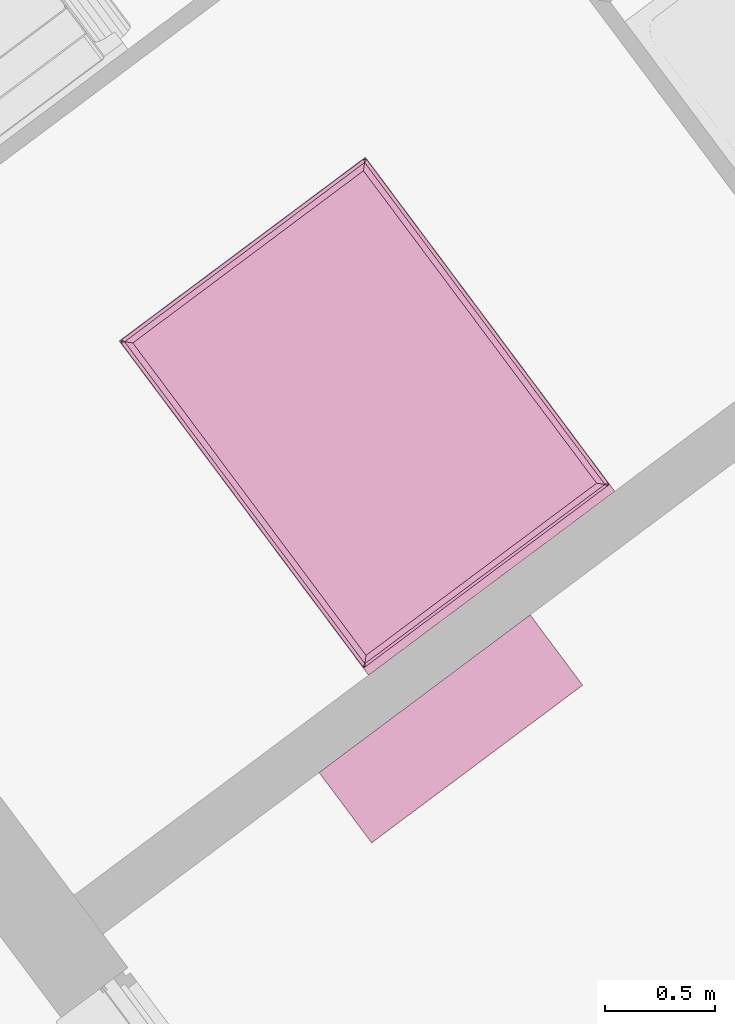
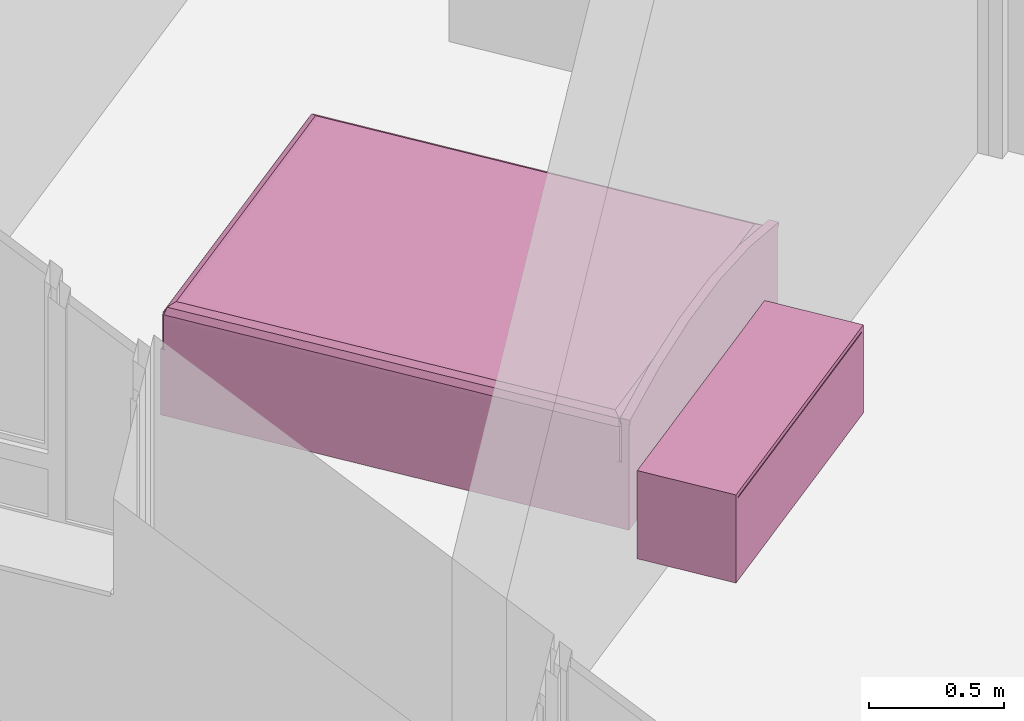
# One storey, part 145 of 195: 2 furnishings.
"""IFC2X3 building model written with IfcOpenShell, lengths in metres."""

from ifc_helpers import new_model, entity, si_unit, converted_unit, derived_unit, money_unit, direction, frame, origin_with_axes, place, context, subcontext, project, spatial, open_shell, faceted_brep, surface_model, source, transform, mapped, type_object, element, save


model = new_model("IFC2X3")

# Units and contexts
model_context = context("Model", 3, precision=1e-05, world=origin_with_axes(), true_north=direction((0.0, 1.0)))
body_context = subcontext(model_context, "Body", "Model", "MODEL_VIEW")
ifc_project = project(units=[si_unit("LENGTHUNIT", "METRE"), si_unit("AREAUNIT", "SQUARE_METRE"), si_unit("VOLUMEUNIT", "CUBIC_METRE"), converted_unit("PLANEANGLEUNIT", "DEGREE", entity("IfcPlaneAngleMeasure", 0.0174532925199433), si_unit("PLANEANGLEUNIT", "RADIAN"), dimensions=[0, 0, 0, 0, 0, 0, 0]), money_unit("CHF"), converted_unit("TIMEUNIT", "Year", entity("IfcTimeMeasure", 31557600.0), si_unit("TIMEUNIT", "SECOND"), dimensions=[0, 0, 1, 0, 0, 0, 0]), si_unit("MASSUNIT", "GRAM", prefix="KILO"), si_unit("THERMODYNAMICTEMPERATUREUNIT", "DEGREE_CELSIUS"), si_unit("LUMINOUSINTENSITYUNIT", "LUMEN"), si_unit("ENERGYUNIT", "JOULE", prefix="MEGA"), derived_unit("THERMALCONDUCTANCEUNIT", [(si_unit("POWERUNIT", "WATT"), 1), (si_unit("LENGTHUNIT", "METRE"), -1), (si_unit("THERMODYNAMICTEMPERATUREUNIT", "KELVIN"), -1)]), derived_unit("SPECIFICHEATCAPACITYUNIT", [(si_unit("ENERGYUNIT", "JOULE"), 1), (si_unit("MASSUNIT", "GRAM", prefix="KILO"), -1), (si_unit("THERMODYNAMICTEMPERATUREUNIT", "KELVIN"), -1)]), derived_unit("MASSDENSITYUNIT", [(si_unit("MASSUNIT", "GRAM", prefix="KILO"), 1), (si_unit("VOLUMEUNIT", "CUBIC_METRE"), -1)])], contexts=[model_context])

# Site, building, storey
site_placement = place(None, origin_with_axes())
site = spatial("IfcSite", under=ifc_project, at=site_placement, Name="Site", CompositionType="ELEMENT")
building_placement = place(site_placement, origin_with_axes())
building = spatial("IfcBuilding", under=site, at=building_placement, Name="Bâtiment", CompositionType="ELEMENT")
storey_placement = place(building_placement, origin_with_axes())
storey = spatial("IfcBuildingStorey", under=building, at=storey_placement, Name="rdc", CompositionType="ELEMENT", Elevation=0.0)

# Furnishings
furnishing_element_type_1 = type_object("IfcFurnishingElementType", Name="Meuble à plans 27")
shared_shape_1 = source(origin_with_axes(), body_context, "Body", "SurfaceModel", [
    surface_model("IfcShellBasedSurfaceModel", [(-1.18, 0.02, 0.0), (-1.18, 0.4, 0.0), (-0.02, 0.4, 0.0), (-0.02, 0.02, 0.0)], [open_shell([[[0, 1, 2, 3]]])]),
    faceted_brep([(0.0, 0.4, 0.0), (0.0, 0.0, 0.0), (-1.2, 0.0, 0.0), (-1.2, 0.4, 0.0), (0.0, 0.4, 0.4), (0.0, 0.0, 0.4), (-1.2, 0.0, 0.4), (-0.02, 0.0, 0.02), (-1.18, 0.0, 0.02), (-1.18, 0.0, 0.38), (-0.02, 0.0, 0.38), (-1.2, 0.4, 0.4), (-0.02, 0.4, 0.01999999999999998), (-0.02, 0.4, 0.38), (-1.18, 0.4, 0.38), (-1.18, 0.4, 0.01999999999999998)], [[[0, 1, 2, 3]], [[4, 5, 1, 0]], [[1, 5, 6, 2], [7, 8, 9, 10]], [[3, 2, 6, 11]], [[0, 3, 11, 4], [12, 13, 14, 15]], [[11, 6, 5, 4]], [[15, 8, 7, 12]], [[14, 9, 8, 15]], [[13, 10, 9, 14]], [[12, 7, 10, 13]]]),
    faceted_brep([(-1.18, 0.4, 0.01999999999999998), (-1.18, 0.4, 0.38), (-0.02, 0.4, 0.38), (-0.02, 0.4, 0.01999999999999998), (-1.18, 0.38, 0.01999999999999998), (-1.18, 0.3800000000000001, 0.38), (-0.02, 0.3800000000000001, 0.38), (-0.02, 0.38, 0.01999999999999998)], [[[0, 1, 2, 3]], [[0, 4, 5, 1]], [[1, 5, 6, 2]], [[2, 6, 7, 3]], [[3, 7, 4, 0]], [[7, 6, 5, 4]]]),
    faceted_brep([(-1.18, 0.0, 0.02), (-1.18, 0.38, 0.02), (-0.02, 0.38, 0.02), (-0.02, 0.0, 0.02), (-1.18, 0.0, 0.3750000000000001), (-1.18, 0.38, 0.3750000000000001), (-0.02, 0.38, 0.3750000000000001), (-0.02, 0.0, 0.3750000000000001)], [[[0, 1, 2, 3]], [[0, 4, 5, 1]], [[1, 5, 6, 2]], [[2, 6, 7, 3]], [[3, 7, 4, 0]], [[7, 6, 5, 4]]]),
])
furnishing_1_placement = place(storey_placement, frame((9534.874061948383, -1080.804691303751, 57.92018680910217), z_axis=(0.0, 0.0, 1.0), x_axis=(0.8011628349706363, 0.5984464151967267, 0.0)))
element("IfcFurnishingElement", 1, at=furnishing_1_placement, inside=storey, type_object=furnishing_element_type_1, Name="Obj.-376", context=body_context, shape_type="MappedRepresentation", body=[
    mapped(shared_shape_1, transform((0.0, 0.0, 0.0))),
])
furnishing_element_type_2 = type_object("IfcFurnishingElementType", Name="Lit double 01")
shared_shape_2 = source(origin_with_axes(), body_context, "Body", "Brep", [
    faceted_brep([(0.0, 1.895, 0.0), (0.0, 1.865, 0.0), (-1.4, 1.865, 0.0), (-1.4, 1.895, 0.0), (0.0, 1.895, 0.48), (0.0, 1.865, 0.48), (-0.276362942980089, 1.865, 0.5438448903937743), (-0.558179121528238, 1.865, 0.5759741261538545), (-0.8418208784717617, 1.865, 0.5759741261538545), (-1.123637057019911, 1.865, 0.5438448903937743), (-1.4, 1.865, 0.48), (-1.4, 1.865, 0.4799), (-1.4, 1.895, 0.4799), (-1.4, 1.895, 0.48), (-1.123637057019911, 1.895, 0.5438448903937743), (-0.8418208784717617, 1.895, 0.5759741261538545), (-0.558179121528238, 1.895, 0.5759741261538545), (-0.276362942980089, 1.895, 0.5438448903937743)], [[[0, 1, 2, 3]], [[4, 5, 1, 0]], [[1, 5, 6, 7, 8, 9, 10, 11, 2]], [[3, 2, 11, 12]], [[0, 3, 12, 13, 14, 15, 16, 17, 4]], [[17, 6, 5, 4]], [[16, 7, 6, 17]], [[15, 8, 7, 16]], [[14, 9, 8, 15]], [[13, 10, 9, 14]], [[12, 11, 10, 13]]]),
    faceted_brep([(-1.4, 1.9, 0.48), (-1.4, 1.86, 0.48), (-1.399999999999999, 1.86, 0.4999999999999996), (-1.399999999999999, 1.9, 0.4999999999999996), (-1.123637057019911, 1.9, 0.5438448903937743), (-1.123637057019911, 1.86, 0.5438448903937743), (-0.8418208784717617, 1.86, 0.5759741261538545), (-0.558179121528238, 1.86, 0.5759741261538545), (-0.276362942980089, 1.86, 0.5438448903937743), (0.0, 1.86, 0.48), (0.0, 1.86, 0.4999), (0.0, 1.86, 0.5), (-0.276362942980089, 1.86, 0.5638448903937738), (-0.5581791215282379, 1.86, 0.5959741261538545), (-0.8418208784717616, 1.86, 0.5959741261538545), (-1.123637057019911, 1.86, 0.5638448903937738), (-1.123637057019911, 1.9, 0.5638448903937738), (-0.8418208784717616, 1.9, 0.5959741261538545), (-0.5581791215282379, 1.9, 0.5959741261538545), (-0.276362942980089, 1.9, 0.5638448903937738), (0.0, 1.9, 0.5), (0.0, 1.9, 0.4999), (0.0, 1.9, 0.48), (-0.276362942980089, 1.9, 0.5438448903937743), (-0.558179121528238, 1.9, 0.5759741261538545), (-0.8418208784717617, 1.9, 0.5759741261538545)], [[[0, 1, 2, 3]], [[4, 5, 1, 0]], [[1, 5, 6, 7, 8, 9, 10, 11, 12, 13, 14, 15, 2]], [[3, 2, 15, 16]], [[0, 3, 16, 17, 18, 19, 20, 21, 22, 23, 24, 25, 4]], [[25, 6, 5, 4]], [[24, 7, 6, 25]], [[23, 8, 7, 24]], [[22, 9, 8, 23]], [[21, 10, 9, 22]], [[20, 11, 10, 21]], [[19, 12, 11, 20]], [[18, 13, 12, 19]], [[17, 14, 13, 18]], [[16, 15, 14, 17]]]),
    faceted_brep([(-1.4, 0.0, 0.0), (-1.4, 1.865, 0.0), (0.0, 1.865, 0.0), (0.0, 0.0, 0.0), (-1.4, 0.0, 0.3), (-1.4, 1.865, 0.3), (0.0, 1.865, 0.3), (0.0, 0.0, 0.3)], [[[0, 1, 2, 3]], [[0, 4, 5, 1]], [[1, 5, 6, 2]], [[2, 6, 7, 3]], [[3, 7, 4, 0]], [[7, 6, 5, 4]]]),
    faceted_brep([(0.0, 0.02, 0.43), (-0.002679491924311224, 0.01, 0.43), (-0.009999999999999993, 0.002679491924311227, 0.43), (-0.01999999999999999, 0.0, 0.43), (-1.38, 0.0, 0.43), (-1.39, 0.002679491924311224, 0.43), (-1.397320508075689, 0.009999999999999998, 0.43), (-1.4, 0.02, 0.43), (-1.4, 1.845, 0.43), (-1.397320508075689, 1.855, 0.43), (-1.39, 1.862320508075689, 0.43), (-1.38, 1.865, 0.43), (-0.02, 1.865, 0.43), (-0.009999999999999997, 1.862320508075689, 0.43), (-0.002679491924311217, 1.855, 0.43), (0.0, 1.845, 0.43), (3.895163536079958e-10, 0.02000000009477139, 0.44), (-0.002679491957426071, 0.0100000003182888, 0.44), (-0.0100000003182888, 0.002679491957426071, 0.44), (-0.02000000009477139, -3.895163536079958e-10, 0.44), (-1.380000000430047, -3.895163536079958e-10, 0.44), (-1.39000000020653, 0.002679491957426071, 0.44), (-1.39732050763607, 0.0100000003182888, 0.44), (-1.399999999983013, 0.02000000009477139, 0.44), (-1.399999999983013, 1.845000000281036, 0.44), (-1.39732050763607, 1.855000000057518, 0.44), (-1.39000000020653, 1.862320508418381, 0.44), (-1.380000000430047, 1.864999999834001, 0.44), (-0.02000000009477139, 1.864999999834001, 0.44), (-0.0100000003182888, 1.862320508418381, 0.44), (-0.002679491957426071, 1.855000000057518, 0.44), (3.895163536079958e-10, 1.845000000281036, 0.44), (-0.002044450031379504, 0.02026915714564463, 0.4555291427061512), (-0.004512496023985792, 0.01105828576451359, 0.4555291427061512), (-0.01105828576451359, 0.004512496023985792, 0.4555291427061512), (-0.02026915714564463, 0.002044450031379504, 0.4555291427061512), (-1.379730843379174, 0.002044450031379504, 0.4555291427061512), (-1.388941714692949, 0.004512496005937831, 0.4555291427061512), (-1.395487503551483, 0.01105828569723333, 0.4555291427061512), (-1.397955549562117, 0.02026915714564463, 0.4555291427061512), (-1.397955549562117, 1.844730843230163, 0.4555291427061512), (-1.395487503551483, 1.853941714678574, 0.4555291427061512), (-1.388941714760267, 1.860487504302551, 0.4555291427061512), (-1.379730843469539, 1.862955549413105, 0.4555291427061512), (-0.02026915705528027, 1.862955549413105, 0.4555291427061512), (-0.01105828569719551, 1.860487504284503, 0.4555291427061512), (-0.004512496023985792, 1.853941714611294, 0.4555291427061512), (-0.002044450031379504, 1.844730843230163, 0.4555291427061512), (-0.01757359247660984, 0.02231360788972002, 0.4824264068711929), (-0.01843554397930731, 0.01909676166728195, 0.4824264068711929), (-0.01909676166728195, 0.01843554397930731, 0.4824264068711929), (-0.02231360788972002, 0.01757359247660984, 0.4824264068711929), (-1.377686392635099, 0.01757359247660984, 0.4824264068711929), (-1.380903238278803, 0.01843554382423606, 0.4824264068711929), (-1.381564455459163, 0.01909676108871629, 0.4824264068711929), (-1.382426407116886, 0.02231360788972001, 0.4824264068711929), (-1.382426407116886, 1.842686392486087, 0.4824264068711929), (-1.381564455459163, 1.845903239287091, 0.4824264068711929), (-1.380903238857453, 1.846564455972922, 0.4824264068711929), (-1.377686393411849, 1.847426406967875, 0.4824264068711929), (-0.02231360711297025, 1.847426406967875, 0.4824264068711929), (-0.01909676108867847, 1.846564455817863, 0.4824264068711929), (-0.01843554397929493, 1.845903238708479, 0.4824264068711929), (-0.01757359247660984, 1.842686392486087, 0.4824264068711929), (-0.02303225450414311, 0.02303225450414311, 0.4855779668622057), (-0.02000000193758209, 0.02000000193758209, 0.4834338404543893), (-0.04447085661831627, 0.04447085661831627, 0.4979555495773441), (-1.35552914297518, 0.04447085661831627, 0.4979555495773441), (-1.376967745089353, 0.02303225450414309, 0.4855779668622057), (-1.379999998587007, 0.02000000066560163, 0.4834338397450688), (-1.35552914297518, 1.820529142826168, 0.4979555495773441), (-1.376967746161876, 1.841967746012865, 0.4855779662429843), (-1.380000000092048, 1.845000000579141, 0.4834338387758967), (-0.04447085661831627, 1.820529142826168, 0.4979555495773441), (-0.02303225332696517, 1.841967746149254, 0.48557796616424), (-0.02000000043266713, 1.844999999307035, 0.4834338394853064), (-0.05999999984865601, 0.05999999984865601, 0.5000000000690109), (-1.33999999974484, 0.05999999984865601, 0.5000000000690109), (-1.33999999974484, 1.804999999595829, 0.5000000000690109), (-0.05999999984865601, 1.804999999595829, 0.5000000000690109)], [[[0, 1, 2, 3, 4, 5, 6, 7, 8, 9, 10, 11, 12, 13, 14, 15]], [[0, 16, 17, 1]], [[1, 17, 18, 2]], [[2, 18, 19, 3]], [[3, 19, 20, 4]], [[4, 20, 21, 5]], [[5, 21, 22, 6]], [[6, 22, 23, 7]], [[7, 23, 24, 8]], [[8, 24, 25, 9]], [[9, 25, 26, 10]], [[10, 26, 27, 11]], [[11, 27, 28, 12]], [[12, 28, 29, 13]], [[13, 29, 30, 14]], [[14, 30, 31, 15]], [[15, 31, 16, 0]], [[16, 32, 33, 17]], [[17, 33, 34, 18]], [[18, 34, 35, 19]], [[19, 35, 36, 20]], [[20, 36, 37, 21]], [[21, 37, 38, 22]], [[22, 38, 39, 23]], [[23, 39, 40, 24]], [[24, 40, 41, 25]], [[25, 41, 42, 26]], [[26, 42, 43, 27]], [[27, 43, 44, 28]], [[28, 44, 45, 29]], [[29, 45, 46, 30]], [[30, 46, 47, 31]], [[31, 47, 32, 16]], [[32, 48, 49, 33]], [[33, 49, 50, 34]], [[34, 50, 51, 35]], [[35, 51, 52, 36]], [[36, 52, 53, 37]], [[37, 53, 54, 38]], [[38, 54, 55, 39]], [[39, 55, 56, 40]], [[40, 56, 57, 41]], [[41, 57, 58, 42]], [[42, 58, 59, 43]], [[43, 59, 60, 44]], [[44, 60, 61, 45]], [[45, 61, 62, 46]], [[46, 62, 63, 47]], [[47, 63, 48, 32]], [[48, 64, 65, 49]], [[49, 65, 50]], [[50, 65, 64, 51]], [[51, 64, 66, 67, 68, 52]], [[52, 68, 69, 53]], [[53, 69, 54]], [[54, 69, 68, 55]], [[55, 68, 67, 70, 71, 56]], [[56, 71, 72, 57]], [[57, 72, 58]], [[58, 72, 71, 59]], [[59, 71, 70, 73, 74, 60]], [[60, 74, 75, 61]], [[61, 75, 62]], [[62, 75, 74, 63]], [[63, 74, 73, 66, 64, 48]], [[66, 76, 77, 67]], [[67, 77, 78, 70]], [[70, 78, 79, 73]], [[73, 79, 76, 66]], [[78, 77, 76, 79]]]),
    faceted_brep([(-1.39000000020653, 0.002679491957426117, 0.2999999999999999), (-1.39, 0.002679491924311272, 0.3099999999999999), (-1.397320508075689, 0.01000000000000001, 0.3099999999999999), (-1.39732050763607, 0.01000000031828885, 0.2999999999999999), (-1.380000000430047, -3.895163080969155e-10, 0.2999999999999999), (-1.38, 0.0, 0.3099999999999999), (-1.4, 0.02000000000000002, 0.3099999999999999), (-0.02000000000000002, 0.0, 0.3099999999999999), (-0.01000000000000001, 0.002679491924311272, 0.3099999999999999), (-0.002679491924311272, 0.01000000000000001, 0.3099999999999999), (0.0, 0.02000000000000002, 0.3099999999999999), (0.0, 1.845, 0.3099999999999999), (-0.002679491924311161, 1.855, 0.3099999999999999), (-0.01000000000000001, 1.862320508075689, 0.3099999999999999), (-0.02000000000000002, 1.865, 0.3099999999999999), (-1.38, 1.865, 0.3099999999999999), (-1.39, 1.862320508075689, 0.3099999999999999), (-1.397320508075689, 1.855, 0.3099999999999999), (-1.4, 1.845, 0.3099999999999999), (-1.399999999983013, 0.02000000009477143, 0.2999999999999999), (-1.399999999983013, 1.845000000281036, 0.2999999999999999), (-1.39732050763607, 1.855000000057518, 0.2999999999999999), (-1.39000000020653, 1.862320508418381, 0.2999999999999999), (-1.380000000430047, 1.864999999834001, 0.2999999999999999), (-0.02000000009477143, 1.864999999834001, 0.2999999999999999), (-0.01000000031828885, 1.862320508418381, 0.2999999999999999), (-0.002679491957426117, 1.855000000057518, 0.2999999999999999), (3.895163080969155e-10, 1.845000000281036, 0.2999999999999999), (3.895163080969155e-10, 0.02000000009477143, 0.2999999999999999), (-0.002679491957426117, 0.01000000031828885, 0.2999999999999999), (-0.01000000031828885, 0.002679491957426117, 0.2999999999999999), (-0.02000000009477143, -3.895163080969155e-10, 0.2999999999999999)], [[[0, 1, 2, 3]], [[1, 0, 4, 5]], [[6, 2, 1, 5, 7, 8, 9, 10, 11, 12, 13, 14, 15, 16, 17, 18]], [[3, 2, 6, 19]], [[3, 19, 20, 21, 22, 23, 24, 25, 26, 27, 28, 29, 30, 31, 4, 0]], [[7, 5, 4, 31]], [[30, 8, 7, 31]], [[8, 30, 29, 9]], [[9, 29, 28, 10]], [[10, 28, 27, 11]], [[26, 12, 11, 27]], [[12, 26, 25, 13]], [[25, 24, 14, 13]], [[24, 23, 15, 14]], [[22, 16, 15, 23]], [[21, 17, 16, 22]], [[17, 21, 20, 18]], [[19, 6, 18, 20]]]),
    faceted_brep([(0.0, 0.02, 0.3099999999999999), (0.0, 0.02, 0.4299999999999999), (-0.002679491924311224, 0.01, 0.4299999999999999), (-0.002679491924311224, 0.01, 0.3099999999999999), (0.0, 1.845, 0.3099999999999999), (0.0, 1.845, 0.4299999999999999), (-0.002679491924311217, 1.855, 0.4299999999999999), (-0.009999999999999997, 1.862320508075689, 0.4299999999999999), (-0.02, 1.865, 0.4299999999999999), (-1.38, 1.865, 0.4299999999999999), (-1.39, 1.862320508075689, 0.4299999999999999), (-1.397320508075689, 1.855, 0.4299999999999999), (-1.4, 1.845, 0.4299999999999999), (-1.4, 0.02, 0.4299999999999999), (-1.397320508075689, 0.009999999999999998, 0.4299999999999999), (-1.39, 0.002679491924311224, 0.4299999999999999), (-1.38, 0.0, 0.4299999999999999), (-0.01999999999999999, 0.0, 0.4299999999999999), (-0.009999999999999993, 0.002679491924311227, 0.4299999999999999), (-0.009999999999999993, 0.002679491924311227, 0.3099999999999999), (-0.01999999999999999, 0.0, 0.3099999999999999), (-1.38, 0.0, 0.3099999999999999), (-1.39, 0.002679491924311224, 0.3099999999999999), (-1.397320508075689, 0.009999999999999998, 0.3099999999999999), (-1.4, 0.02, 0.3099999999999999), (-1.4, 1.845, 0.3099999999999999), (-1.397320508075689, 1.855, 0.3099999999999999), (-1.39, 1.862320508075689, 0.3099999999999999), (-1.38, 1.865, 0.3099999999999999), (-0.02, 1.865, 0.3099999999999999), (-0.009999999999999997, 1.862320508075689, 0.3099999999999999), (-0.002679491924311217, 1.855, 0.3099999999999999)], [[[0, 1, 2, 3]], [[4, 5, 1, 0]], [[1, 5, 6, 7, 8, 9, 10, 11, 12, 13, 14, 15, 16, 17, 18, 2]], [[3, 2, 18, 19]], [[0, 3, 19, 20, 21, 22, 23, 24, 25, 26, 27, 28, 29, 30, 31, 4]], [[31, 6, 5, 4]], [[30, 7, 6, 31]], [[29, 8, 7, 30]], [[28, 9, 8, 29]], [[27, 10, 9, 28]], [[26, 11, 10, 27]], [[25, 12, 11, 26]], [[24, 13, 12, 25]], [[23, 14, 13, 24]], [[22, 15, 14, 23]], [[21, 16, 15, 22]], [[20, 17, 16, 21]], [[19, 18, 17, 20]]]),
])
furnishing_2_placement = place(storey_placement, frame((9532.762520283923, -1079.236526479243, 57.7), z_axis=(0.0, 0.0, 1.0), x_axis=(-0.8013410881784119, -0.5982077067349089, 0.0)))
element("IfcFurnishingElement", 2, at=furnishing_2_placement, inside=storey, type_object=furnishing_element_type_2, Name="Obj.-002", context=body_context, shape_type="MappedRepresentation", body=[
    mapped(shared_shape_2, transform((0.0, 0.0, 0.0))),
])

save(model, "model.ifc")
